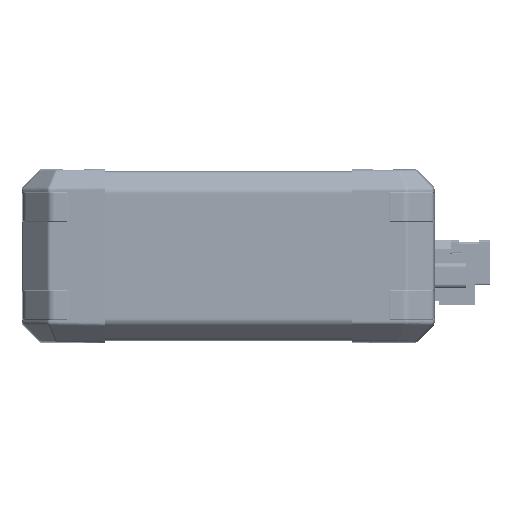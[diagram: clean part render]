
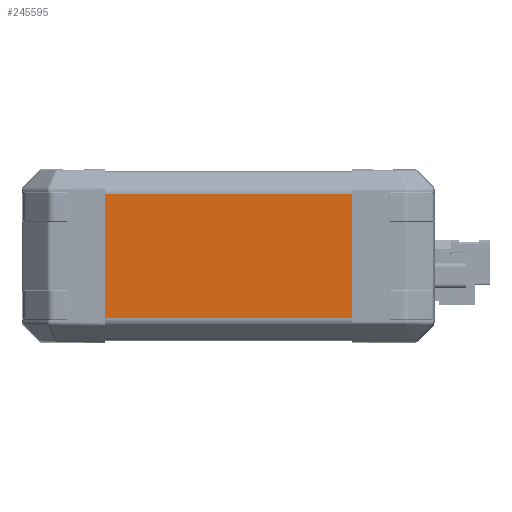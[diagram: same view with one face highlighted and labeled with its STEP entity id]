
A CAD part, left-side view. The second image highlights one B-rep face of the part: STEP entity #245595.
In plain terms, the highlighted planar face has unit normal (-1, 0, 0) as drawn and (1, 0, 0) by its records, which use the part's own axes.
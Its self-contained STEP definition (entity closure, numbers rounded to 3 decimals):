
#205611=FACE_OUTER_BOUND('',#450290,.T.);
#245595=ADVANCED_FACE('',(#205611),#277484,.T.);
#277484=PLANE('',#839496);
#300694=LINE('',#1063324,#374783);
#300695=LINE('',#1063326,#374784);
#300696=LINE('',#1063328,#374785);
#300697=LINE('',#1063330,#374786);
#374783=VECTOR('',#889773,1.);
#374784=VECTOR('',#889776,1.);
#374785=VECTOR('',#889777,1.);
#374786=VECTOR('',#889778,1.);
#450290=EDGE_LOOP('',(#483884,#483885,#483886,#483887));
#483884=ORIENTED_EDGE('',*,*,#729638,.T.);
#483885=ORIENTED_EDGE('',*,*,#729637,.T.);
#483886=ORIENTED_EDGE('',*,*,#729639,.F.);
#483887=ORIENTED_EDGE('',*,*,#729640,.F.);
#668458=VERTEX_POINT('',#1063321);
#668459=VERTEX_POINT('',#1063323);
#668460=VERTEX_POINT('',#1063327);
#668461=VERTEX_POINT('',#1063329);
#729637=EDGE_CURVE('',#668458,#668459,#300694,.T.);
#729638=EDGE_CURVE('',#668460,#668458,#300695,.T.);
#729639=EDGE_CURVE('',#668461,#668459,#300696,.T.);
#729640=EDGE_CURVE('',#668460,#668461,#300697,.T.);
#839496=AXIS2_PLACEMENT_3D('',#1063331,#889779,#889780);
#889773=DIRECTION('',(0.,0.,1.));
#889776=DIRECTION('',(0.,1.,0.));
#889777=DIRECTION('',(0.,1.,0.));
#889778=DIRECTION('',(0.,0.,1.));
#889779=DIRECTION('',(1.,0.,0.));
#889780=DIRECTION('',(0.,-1.,0.));
#1063321=CARTESIAN_POINT('',(9.027,16.88,0.));
#1063323=CARTESIAN_POINT('',(9.027,16.88,54.));
#1063324=CARTESIAN_POINT('',(9.027,16.88,0.));
#1063326=CARTESIAN_POINT('',(9.027,-10.363,0.));
#1063327=CARTESIAN_POINT('',(9.027,-10.363,0.));
#1063328=CARTESIAN_POINT('',(9.027,-10.363,54.));
#1063329=CARTESIAN_POINT('',(9.027,-10.363,54.));
#1063330=CARTESIAN_POINT('',(9.027,-10.363,0.));
#1063331=CARTESIAN_POINT('',(9.027,-10.363,0.));
